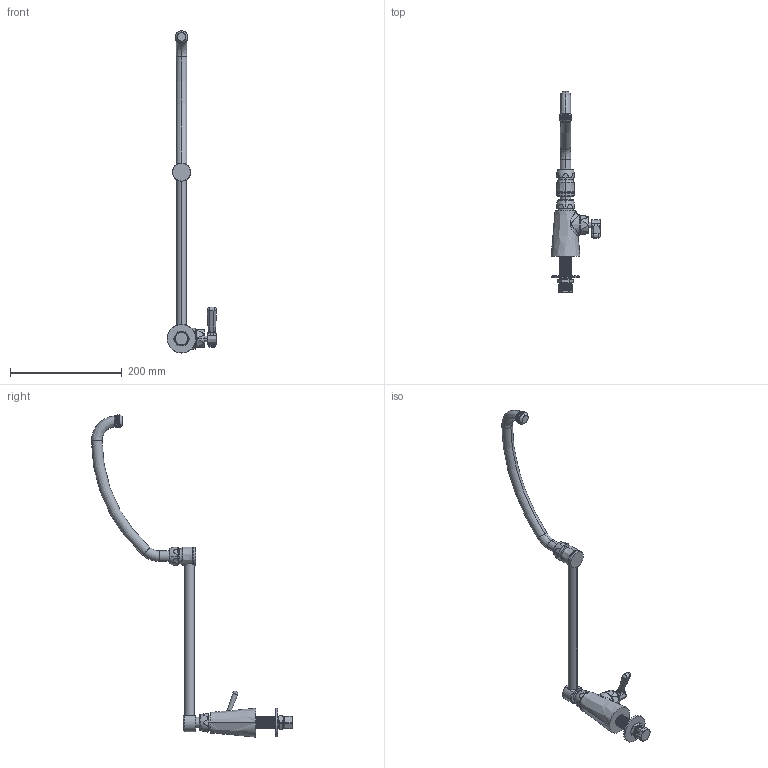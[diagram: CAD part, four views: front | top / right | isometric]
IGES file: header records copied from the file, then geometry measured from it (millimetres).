
Start section:  PTC IGES file: 350-dj21abcp_sw0001.igs
Global section: file name: 350-dj21abcp_sw0001.igs; native system: Creo Parametric by Parametric Technology Corporation; preprocessor: 2012230; author: jrodriguez; organization: Unknown; date: 20121218.105308; units: inch
Bounding box: 88.92 x 359.55 x 576.04 mm (x, y, z)
Surface area: 91137.6 mm2 (no closed solid volume)
Topology: 0 solids, 0 shells, 477 faces, 2769 edges, 2765 vertices
Faces by surface type: revolution 274, bspline 203
